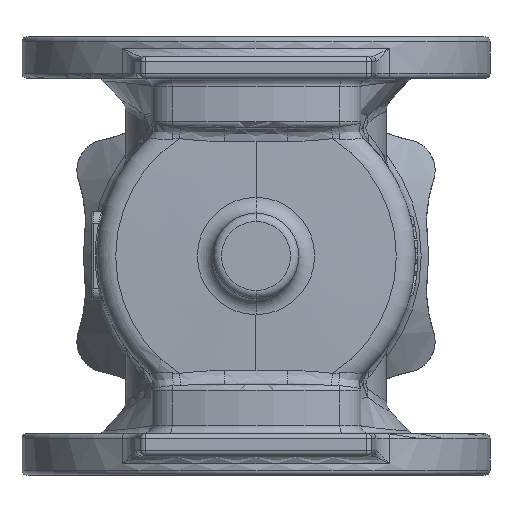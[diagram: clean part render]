
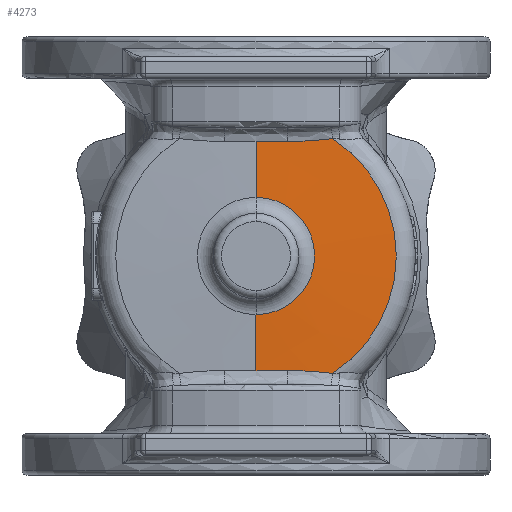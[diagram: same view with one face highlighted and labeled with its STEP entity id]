
A CAD part, front view. The second image highlights one B-rep face of the part: STEP entity #4273.
In plain terms, the highlighted conical face has half-angle 88 degrees and reference radius 97 mm.
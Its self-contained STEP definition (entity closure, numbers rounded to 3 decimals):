
#342 = DIRECTION ( 'NONE',  ( 0., 1., 0. ) ) ;
#793 = CIRCLE ( 'NONE', #29025, 35.651 ) ;
#941 = AXIS2_PLACEMENT_3D ( 'NONE', #15982, #5060, #28979 ) ;
#1891 = ORIENTED_EDGE ( 'NONE', *, *, #23191, .T. ) ;
#2831 = AXIS2_PLACEMENT_3D ( 'NONE', #32240, #8501, #19085 ) ;
#2903 = CARTESIAN_POINT ( 'NONE',  ( 0., -130.442, -35.651 ) ) ;
#3368 = VERTEX_POINT ( 'NONE', #11879 ) ;
#3574 = VERTEX_POINT ( 'NONE', #19137 ) ;
#3848 = CARTESIAN_POINT ( 'NONE',  ( 12.795, -129.218, -69.824 ) ) ;
#4273 = ADVANCED_FACE ( 'Defeatured_0_429', ( #8353 ), #18645, .T. ) ;
#4416 = ORIENTED_EDGE ( 'NONE', *, *, #23000, .T. ) ;
#4619 = B_SPLINE_CURVE_WITH_KNOTS ( 'NONE', 3,
 ( #25154, #27580, #23062, #34315, #4664, #28767, #17858, #12975, #23734, #12471 ),
 .UNSPECIFIED., .F., .F.,
 ( 4, 2, 2, 2, 4 ),
 ( 0., 0.007, 0.014, 0.021, 0.028 ),
 .UNSPECIFIED. ) ;
#4664 = CARTESIAN_POINT ( 'NONE',  ( 35.303, -128.944, 70.202 ) ) ;
#4687 = CARTESIAN_POINT ( 'NONE',  ( 44.48, -128.76, -71.086 ) ) ;
#4871 = CARTESIAN_POINT ( 'NONE',  ( 30.705, -129.019, -69.988 ) ) ;
#5060 = DIRECTION ( 'NONE',  ( 0., 1., 0. ) ) ;
#5449 = DIRECTION ( 'NONE',  ( 0., 0.035, 0.999 ) ) ;
#6607 = VERTEX_POINT ( 'NONE', #13691 ) ;
#8353 = FACE_OUTER_BOUND ( 'NONE', #15026, .T. ) ;
#8501 = DIRECTION ( 'NONE',  ( 0., -1., 0. ) ) ;
#8707 = CARTESIAN_POINT ( 'NONE',  ( 19.192, -129.158, -69.831 ) ) ;
#8883 = CARTESIAN_POINT ( 'NONE',  ( 0., -129.249, -69.821 ) ) ;
#9725 = CARTESIAN_POINT ( 'NONE',  ( 19.192, -129.158, -69.831 ) ) ;
#9909 = CARTESIAN_POINT ( 'NONE',  ( 42.187, -128.81, -70.795 ) ) ;
#10553 = VERTEX_POINT ( 'NONE', #24922 ) ;
#10646 = CARTESIAN_POINT ( 'NONE',  ( 0., -128.3, 97. ) ) ;
#10781 = CARTESIAN_POINT ( 'NONE',  ( 19.192, -129.158, 69.831 ) ) ;
#10929 = VERTEX_POINT ( 'NONE', #10781 ) ;
#11206 = VECTOR ( 'NONE', #5449, 1000. ) ;
#11788 = VERTEX_POINT ( 'NONE', #2903 ) ;
#11879 = CARTESIAN_POINT ( 'NONE',  ( 0., -129.249, -69.821 ) ) ;
#11924 = VERTEX_POINT ( 'NONE', #25441 ) ;
#12327 = EDGE_CURVE ( 'Defeatured_0_429+Defeatured_0_512+Defeatured_0_428+Defeatured_0_511', #6607, #10929, #4619, .T. ) ;
#12471 = CARTESIAN_POINT ( 'NONE',  ( 19.192, -129.158, 69.831 ) ) ;
#12492 = CARTESIAN_POINT ( 'NONE',  ( 21.496, -129.137, -69.833 ) ) ;
#12975 = CARTESIAN_POINT ( 'NONE',  ( 23.799, -129.112, 69.847 ) ) ;
#13090 = CARTESIAN_POINT ( 'NONE',  ( 12.795, -129.218, 69.824 ) ) ;
#13122 = B_SPLINE_CURVE_WITH_KNOTS ( 'NONE', 3,
 ( #15700, #13090, #31639, #21426 ),
 .UNSPECIFIED., .F., .F.,
 ( 4, 4 ),
 ( 0.03, 0.049 ),
 .UNSPECIFIED. ) ;
#13691 = CARTESIAN_POINT ( 'NONE',  ( 46.754, -128.704, 71.488 ) ) ;
#14228 = ORIENTED_EDGE ( 'NONE', *, *, #22823, .T. ) ;
#15026 = EDGE_LOOP ( 'NONE', ( #1891, #20478, #14228, #4416, #19303, #25146, #29441, #33879 ) ) ;
#15107 = VECTOR ( 'NONE', #16243, 1000. ) ;
#15700 = CARTESIAN_POINT ( 'NONE',  ( 19.192, -129.158, 69.831 ) ) ;
#15982 = CARTESIAN_POINT ( 'NONE',  ( 0., -128.3, 0. ) ) ;
#16243 = DIRECTION ( 'NONE',  ( 0., 0.035, -0.999 ) ) ;
#16298 = VERTEX_POINT ( 'NONE', #19369 ) ;
#17689 = EDGE_CURVE ( 'Defeatured_0_429+Defeatured_0_428+Defeatured_0_529+Defeatured_0_512', #3574, #6607, #29395, .T. ) ;
#17858 = CARTESIAN_POINT ( 'NONE',  ( 28.404, -129.053, 69.924 ) ) ;
#18645 = CONICAL_SURFACE ( 'NONE', #941, 97., 1.536 ) ;
#19085 = DIRECTION ( 'NONE',  ( 0., 0., -1. ) ) ;
#19137 = CARTESIAN_POINT ( 'NONE',  ( 46.754, -128.704, -71.488 ) ) ;
#19290 = EDGE_CURVE ( 'NONE', #11924, #16298, #31958, .T. ) ;
#19296 = CARTESIAN_POINT ( 'NONE',  ( 6.397, -129.249, -69.821 ) ) ;
#19303 = ORIENTED_EDGE ( 'NONE', *, *, #17689, .T. ) ;
#19369 = CARTESIAN_POINT ( 'NONE',  ( 0., -129.249, 69.821 ) ) ;
#20123 = EDGE_CURVE ( 'NONE', #11788, #3368, #34285, .T. ) ;
#20478 = ORIENTED_EDGE ( 'NONE', *, *, #20123, .T. ) ;
#21274 = CARTESIAN_POINT ( 'NONE',  ( 0., -128.3, -97. ) ) ;
#21426 = CARTESIAN_POINT ( 'NONE',  ( 0., -129.249, 69.821 ) ) ;
#22823 = EDGE_CURVE ( 'Defeatured_0_429+Defeatured_0_528+Defeatured_0_527+Defeatured_0_529', #3368, #10553, #30069, .T. ) ;
#23000 = EDGE_CURVE ( 'Defeatured_0_429+Defeatured_0_529+Defeatured_0_528+Defeatured_0_428', #10553, #3574, #23818, .T. ) ;
#23062 = CARTESIAN_POINT ( 'NONE',  ( 42.187, -128.81, 70.795 ) ) ;
#23191 = EDGE_CURVE ( 'Defeatured_0_429+Defeatured_0_419+Defeatured_0_419+Defeatured_0_419', #11924, #11788, #793, .T. ) ;
#23259 = CARTESIAN_POINT ( 'NONE',  ( 46.754, -128.704, -71.488 ) ) ;
#23422 = CARTESIAN_POINT ( 'NONE',  ( 37.6, -128.902, -70.353 ) ) ;
#23734 = CARTESIAN_POINT ( 'NONE',  ( 21.496, -129.137, 69.833 ) ) ;
#23818 = B_SPLINE_CURVE_WITH_KNOTS ( 'NONE', 3,
 ( #9725, #12492, #31215, #28622, #4871, #25517, #23422, #9909, #4687, #23259 ),
 .UNSPECIFIED., .F., .F.,
 ( 4, 2, 2, 2, 4 ),
 ( 0., 0.007, 0.014, 0.021, 0.028 ),
 .UNSPECIFIED. ) ;
#24922 = CARTESIAN_POINT ( 'NONE',  ( 19.192, -129.158, -69.831 ) ) ;
#25146 = ORIENTED_EDGE ( 'NONE', *, *, #12327, .T. ) ;
#25154 = CARTESIAN_POINT ( 'NONE',  ( 46.754, -128.704, 71.488 ) ) ;
#25441 = CARTESIAN_POINT ( 'NONE',  ( 0., -130.442, 35.651 ) ) ;
#25517 = CARTESIAN_POINT ( 'NONE',  ( 35.303, -128.944, -70.202 ) ) ;
#26527 = CARTESIAN_POINT ( 'NONE',  ( 0., -130.442, 0. ) ) ;
#27580 = CARTESIAN_POINT ( 'NONE',  ( 44.48, -128.76, 71.086 ) ) ;
#28622 = CARTESIAN_POINT ( 'NONE',  ( 28.404, -129.053, -69.924 ) ) ;
#28767 = CARTESIAN_POINT ( 'NONE',  ( 30.705, -129.019, 69.988 ) ) ;
#28790 = DIRECTION ( 'NONE',  ( 0., 0., 1. ) ) ;
#28979 = DIRECTION ( 'NONE',  ( 0., 0., 1. ) ) ;
#29025 = AXIS2_PLACEMENT_3D ( 'NONE', #26527, #342, #28790 ) ;
#29395 = CIRCLE ( 'NONE', #2831, 85.419 ) ;
#29441 = ORIENTED_EDGE ( 'NONE', *, *, #33616, .T. ) ;
#30069 = B_SPLINE_CURVE_WITH_KNOTS ( 'NONE', 3,
 ( #8883, #19296, #3848, #8707 ),
 .UNSPECIFIED., .F., .F.,
 ( 4, 4 ),
 ( 0.049, 0.068 ),
 .UNSPECIFIED. ) ;
#31215 = CARTESIAN_POINT ( 'NONE',  ( 23.799, -129.112, -69.847 ) ) ;
#31639 = CARTESIAN_POINT ( 'NONE',  ( 6.397, -129.249, 69.821 ) ) ;
#31958 = LINE ( 'NONE', #10646, #11206 ) ;
#32240 = CARTESIAN_POINT ( 'NONE',  ( 0., -128.704, 0. ) ) ;
#33616 = EDGE_CURVE ( 'Defeatured_0_429+Defeatured_0_511+Defeatured_0_512+Defeatured_0_510', #10929, #16298, #13122, .T. ) ;
#33879 = ORIENTED_EDGE ( 'NONE', *, *, #19290, .F. ) ;
#34285 = LINE ( 'NONE', #21274, #15107 ) ;
#34315 = CARTESIAN_POINT ( 'NONE',  ( 37.6, -128.902, 70.353 ) ) ;
